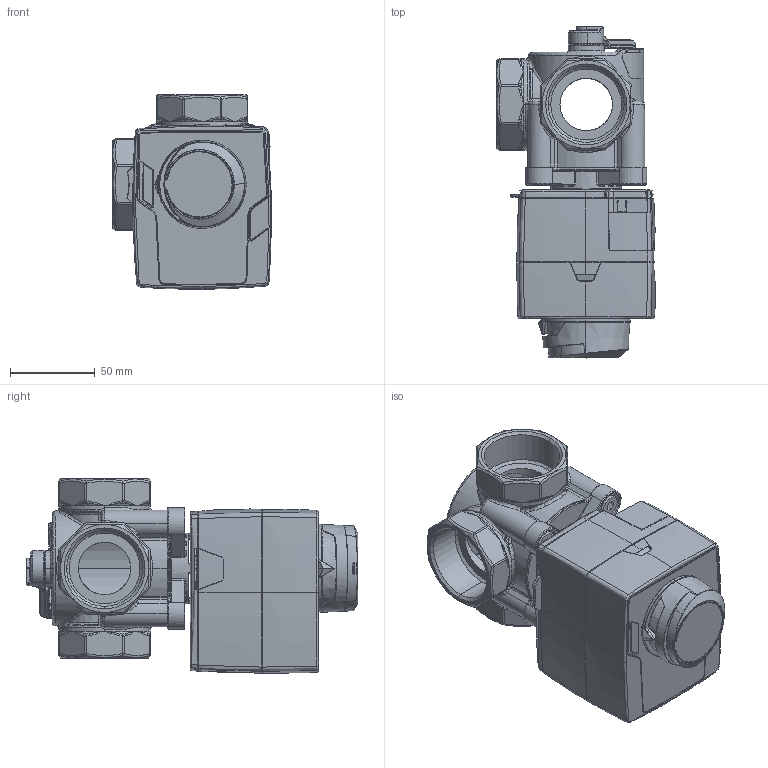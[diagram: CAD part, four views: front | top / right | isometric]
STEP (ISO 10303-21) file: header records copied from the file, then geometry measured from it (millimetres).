
FILE_DESCRIPTION (( 'STEP AP214' ), '1' );
FILE_NAME ('1338654.STEP', '2023-10-23T07:38:38', ( '' ), ( '' ), 'SwSTEP 2.0', 'SolidWorks 2022', '' );
FILE_SCHEMA (( 'AUTOMOTIVE_DESIGN' ));
Length unit declared in the file: millimetre
Products named in the file (26): 709 000 0021_W_X_FCplast-Linsenkopfschraube 3,5x14 T1_0_0; 05 01 001122_Aufnahmesockel DN40_DN50; Schild DN40_DN50; M9120001; 05 01 001119_Verstellhebel DN40_DN50; M9120003_REV2; 907984 8020_Zylinderschr. DIN 7984 - M8x20_0_4; M9120007; Modulating ARM; 1338654; 05 01 001104_Geh_X_E4use 3-W ARV-Vario DN40; M9120070; 907984 8020_Zylinderschr. DIN 7984 - M8x20_0_3; M9120010; M9120009; M9120005; 907984 8020_Zylinderschr. DIN 7984 - M8x20_0_2; 3-Wege-Mischer ARV-Vario DN40_Baugruppe; M9120011; 801 000 5003_O-Ring _X_F850,0x3,0mm EPDM; M9120004_REV2; M9120071; M9120008; 907984 8020_Zylinderschr. DIN 7984 - M8x20_0; KA22x6; M9120006
Assembly tree (29 placements, depth 3):
  1338654
    3-Wege-Mischer ARV-Vario DN40_Baugruppe
      Schild DN40_DN50
      709 000 0021_W_X_FCplast-Linsenkopfschraube 3,5x14 T1_0_0
      801 000 5003_O-Ring _X_F850,0x3,0mm EPDM
      05 01 001119_Verstellhebel DN40_DN50
      907984 8020_Zylinderschr. DIN 7984 - M8x20_0
      907984 8020_Zylinderschr. DIN 7984 - M8x20_0_2
      907984 8020_Zylinderschr. DIN 7984 - M8x20_0_3
      907984 8020_Zylinderschr. DIN 7984 - M8x20_0_4
      05 01 001122_Aufnahmesockel DN40_DN50
      05 01 001104_Geh_X_E4use 3-W ARV-Vario DN40
    Modulating ARM
      M9120071  x2
      M9120070
      KA22x6  x4
      M9120001
      M9120003_REV2
      M9120004_REV2
      M9120005
      M9120006
      M9120007
      M9120008
      M9120009
      M9120010
      M9120011
Bounding box: 93.96 x 196.18 x 114.95 mm (x, y, z)
Volume: 326230.3 mm3; surface area: 228446.7 mm2
Topology: 27 solids, 29 shells, 9001 faces, 23494 edges, 13415 vertices
Faces by surface type: bspline 4227, cylinder 2068, plane 1750, cone 892, torus 64
Entity records: 704000 total; most frequent: CARTESIAN_POINT 434121, ORIENTED_EDGE 43226, DIRECTION 25498, EDGE_CURVE 21613, VERTEX_POINT 13015, AXIS2_PLACEMENT_3D 9781, B_SPLINE_CURVE_WITH_KNOTS 9599, EDGE_LOOP 8966
